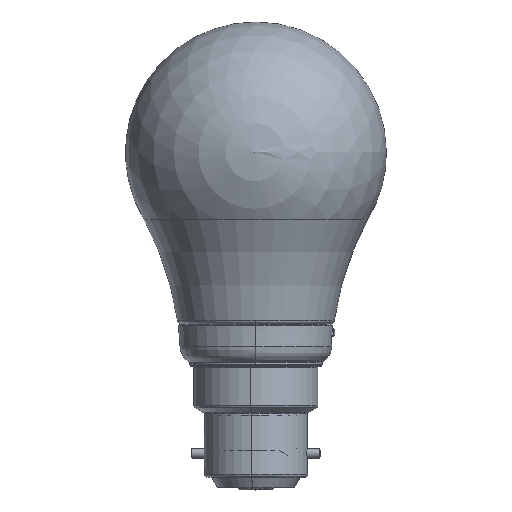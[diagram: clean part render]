
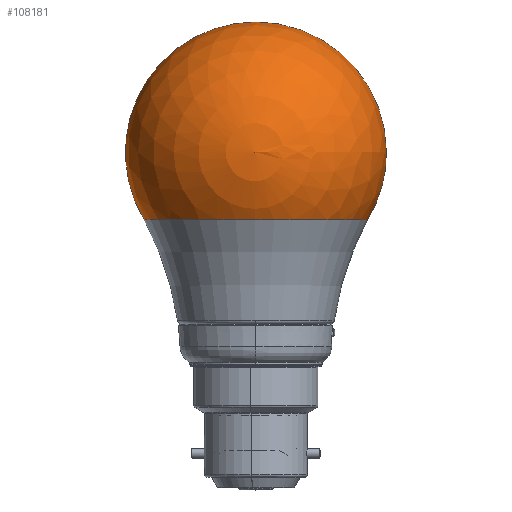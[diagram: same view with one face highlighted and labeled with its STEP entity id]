
A CAD part, top view. The second image highlights one B-rep face of the part: STEP entity #108181.
In plain terms, the highlighted spherical face has radius 27.5 mm.
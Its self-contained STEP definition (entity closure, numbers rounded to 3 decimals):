
#108143 = VERTEX_POINT('',#108144);
#108144 = CARTESIAN_POINT('',(23.55,-14.2,0.));
#108152 = VERTEX_POINT('',#108153);
#108153 = CARTESIAN_POINT('',(-23.55,-14.2,
    0.));
#108181 = ADVANCED_FACE('',(#108182),#108230,.T.);
#108182 = FACE_BOUND('',#108183,.T.);
#108183 = EDGE_LOOP('',(#108184,#108193,#108206,#108207,#108216,#108223)
  );
#108184 = ORIENTED_EDGE('',*,*,#108185,.F.);
#108185 = EDGE_CURVE('',#108186,#108143,#108188,.T.);
#108186 = VERTEX_POINT('',#108187);
#108187 = CARTESIAN_POINT('',(27.5,0.,0.));
#108188 = CIRCLE('',#108189,27.5);
#108189 = AXIS2_PLACEMENT_3D('',#108190,#108191,#108192);
#108190 = CARTESIAN_POINT('',(0.,0.,0.));
#108191 = DIRECTION('',(0.,0.,-1.));
#108192 = DIRECTION('',(-1.,0.,0.));
#108193 = ORIENTED_EDGE('',*,*,#108194,.T.);
#108194 = EDGE_CURVE('',#108186,#108195,#108197,.T.);
#108195 = VERTEX_POINT('',#108196);
#108196 = CARTESIAN_POINT('',(0.,0.,27.5
    ));
#108197 = B_SPLINE_CURVE_WITH_KNOTS('',7,(#108198,#108199,#108200,
    #108201,#108202,#108203,#108204,#108205),.UNSPECIFIED.,.F.,.F.,(8,8)
  ,(0.,1.571),.PIECEWISE_BEZIER_KNOTS.);
#108198 = CARTESIAN_POINT('',(27.5,0.,
    0.));
#108199 = CARTESIAN_POINT('',(27.5,0.,6.171));
#108200 = CARTESIAN_POINT('',(25.884,0.,
    12.342));
#108201 = CARTESIAN_POINT('',(22.653,0.,
    18.006));
#108202 = CARTESIAN_POINT('',(18.006,0.,
    22.653));
#108203 = CARTESIAN_POINT('',(12.342,0.,
    25.884));
#108204 = CARTESIAN_POINT('',(6.171,0.,27.5));
#108205 = CARTESIAN_POINT('',(0.,0.,27.5
    ));
#108206 = ORIENTED_EDGE('',*,*,#108194,.F.);
#108207 = ORIENTED_EDGE('',*,*,#108208,.F.);
#108208 = EDGE_CURVE('',#108209,#108186,#108211,.T.);
#108209 = VERTEX_POINT('',#108210);
#108210 = CARTESIAN_POINT('',(0.,27.5,0.));
#108211 = CIRCLE('',#108212,27.5);
#108212 = AXIS2_PLACEMENT_3D('',#108213,#108214,#108215);
#108213 = CARTESIAN_POINT('',(0.,0.,0.));
#108214 = DIRECTION('',(0.,0.,-1.));
#108215 = DIRECTION('',(-1.,0.,0.));
#108216 = ORIENTED_EDGE('',*,*,#108217,.T.);
#108217 = EDGE_CURVE('',#108209,#108152,#108218,.T.);
#108218 = CIRCLE('',#108219,27.5);
#108219 = AXIS2_PLACEMENT_3D('',#108220,#108221,#108222);
#108220 = CARTESIAN_POINT('',(0.,0.,0.));
#108221 = DIRECTION('',(0.,0.,1.));
#108222 = DIRECTION('',(1.,0.,0.));
#108223 = ORIENTED_EDGE('',*,*,#108224,.F.);
#108224 = EDGE_CURVE('',#108143,#108152,#108225,.T.);
#108225 = CIRCLE('',#108226,23.55);
#108226 = AXIS2_PLACEMENT_3D('',#108227,#108228,#108229);
#108227 = CARTESIAN_POINT('',(0.,-14.2,0.));
#108228 = DIRECTION('',(0.,-1.,-0.));
#108229 = DIRECTION('',(1.,0.,0.));
#108230 = SPHERICAL_SURFACE('',#108231,27.5);
#108231 = AXIS2_PLACEMENT_3D('',#108232,#108233,#108234);
#108232 = CARTESIAN_POINT('',(0.,0.,0.));
#108233 = DIRECTION('',(0.,-0.,1.));
#108234 = DIRECTION('',(1.,0.,0.));
